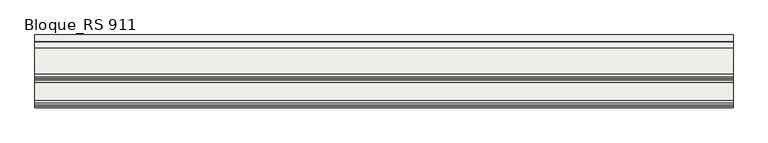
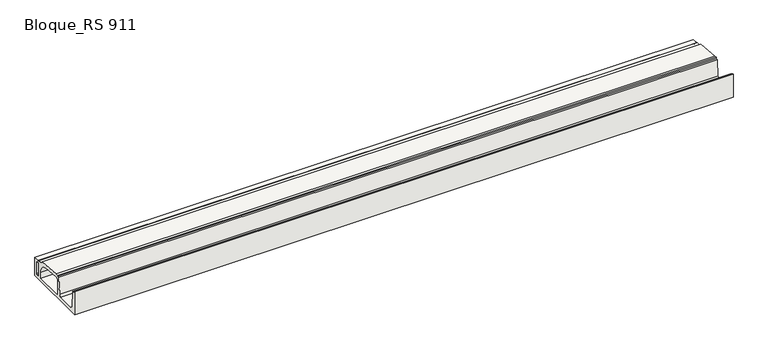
"""IFC4 building model written with IfcOpenShell, lengths in millimetres: slab geometry, ROSA GRES_RS 911 : Bloque_RS 911."""

from ifc_helpers import new_model, si_unit, point, frame, frame_2d, origin, place, context, project, spatial, polyline, circle_curve, trimmed, segment, composite_curve, outline, extrude, source, transform, mapped, element, save


def bloque_rs_911_75aae839(model_context):
    return source(origin(), model_context, "Body", "SweptSolid", [
        extrude(outline(composite_curve([segment(polyline([(-12.836227, 1.7539108), (-626.836227, 1.7539108), (-626.836227, 216.3460936), (-616.836227, 216.3460936), (-616.836227, 206.3460936), (-598.836227, 206.3460936), (-587.1239808, 55.2086635)]), True, "CONTINUOUS"), segment(trimmed(circle_curve(frame_2d((-567.1837649, 56.7539108)), 20.0), [point((-587.1239808, 55.2086635))], [point((-567.1837649, 36.7539108))], True, "CARTESIAN"), True, "CONTINUOUS"), segment(polyline([(-567.1837649, 36.7539108), (-413.4886891, 36.7539108)]), True, "CONTINUOUS"), segment(trimmed(circle_curve(frame_2d((-413.4886891, 56.7539108)), 20.0), [point((-413.4886891, 36.7539108))], [point((-393.5484732, 55.2086635))], True, "CARTESIAN"), True, "CONTINUOUS"), segment(polyline([(-393.5484732, 55.2086635), (-381.836227, 206.3460936), (-363.836227, 206.3460936), (-363.836227, 216.3460936), (-343.836227, 216.3460936), (-343.836227, 214.7181867), (-123.836227, 196.8112099), (-125.1172881, 181.0724591), (-72.836227, 176.8170239), (-72.836227, 173.8170239), (-67.836227, 173.8170239), (-67.836227, 176.4100471), (-12.836227, 171.9333029), (-12.836227, 1.7539108)]), True, "CONTINUOUS")], self_intersect=False), holes=[composite_curve([segment(polyline([(-67.836227, 140.6431347), (-67.836227, 36.7539108)]), True, "CONTINUOUS"), segment(trimmed(circle_curve(frame_2d((-59.836227, 36.7539108)), 8.0), [point((-67.836227, 36.7539108))], [point((-59.836227, 28.7539108))], True, "CARTESIAN"), True, "CONTINUOUS"), segment(polyline([(-59.836227, 28.7539108), (-47.836227, 28.7539108)]), True, "CONTINUOUS"), segment(trimmed(circle_curve(frame_2d((-47.836227, 36.7539108)), 8.0), [point((-47.836227, 28.7539108))], [point((-39.836227, 36.7539108))], True, "CARTESIAN"), True, "CONTINUOUS"), segment(polyline([(-39.836227, 36.7539108), (-39.836227, 139.6663905)]), True, "CONTINUOUS"), segment(trimmed(circle_curve(frame_2d((-47.836227, 139.6663905)), 8.0), [point((-39.836227, 139.6663905))], [point((-47.1872106, 147.6400206))], True, "CARTESIAN"), True, "CONTINUOUS"), segment(polyline([(-47.1872106, 147.6400206), (-59.1872106, 148.6167648)]), True, "CONTINUOUS"), segment(trimmed(circle_curve(frame_2d((-59.836227, 140.6431347)), 8.0), [point((-59.1872106, 148.6167648))], [point((-67.836227, 140.6431347))], True, "CARTESIAN"), True, "CONTINUOUS")], self_intersect=False), composite_curve([segment(polyline([(-180.4105134, 169.2541533), (-334.6837717, 181.811279)]), True, "CONTINUOUS"), segment(trimmed(circle_curve(frame_2d((-336.3063127, 161.8772036)), 20.0), [point((-334.6837717, 181.811279))], [point((-356.3063127, 161.8772036))], True, "CARTESIAN"), True, "CONTINUOUS"), segment(polyline([(-356.3063127, 161.8772036), (-356.3063127, 28.7539108), (-102.3063127, 28.7539108), (-102.3063127, 84.534333)]), True, "CONTINUOUS"), segment(trimmed(circle_curve(frame_2d((-187.3063127, 84.534333)), 85.0), [point((-102.3063127, 84.534333))], [point((-180.4105134, 169.2541533))], True, "CARTESIAN"), True, "CONTINUOUS")], self_intersect=False)]), frame((0.0, 0.0, 0.0), z_axis=(1.0, 0.0, 0.0), x_axis=(0.0, 1.0, 0.0)), (0.0, 0.0, 1.0), 5876.4304638),
    ])


if __name__ == "__main__":
    model = new_model("IFC4")
    model_context = context("Model", 3, world=origin())
    ifc_project = project(units=[si_unit("LENGTHUNIT", "METRE", prefix="MILLI")], contexts=[model_context])
    site = spatial("IfcSite", under=ifc_project)
    building = spatial("IfcBuilding", under=site)
    placement = place(None, origin())
    bloque_rs_911_shape = bloque_rs_911_75aae839(model_context)
    element("IfcSlab", 1, ObjectType="ROSA GRES_RS 911 : Bloque_RS 911", at=placement, inside=building, context=model_context, shape_type="MappedRepresentation", body=[
        mapped(bloque_rs_911_shape, transform((0.0, 0.0, 0.0), x_axis=(1.0, 0.0, 0.0), y_axis=(0.0, 1.0, 0.0), z_axis=(0.0, 0.0, 1.0))),
    ])
    save(model, "model.ifc")
